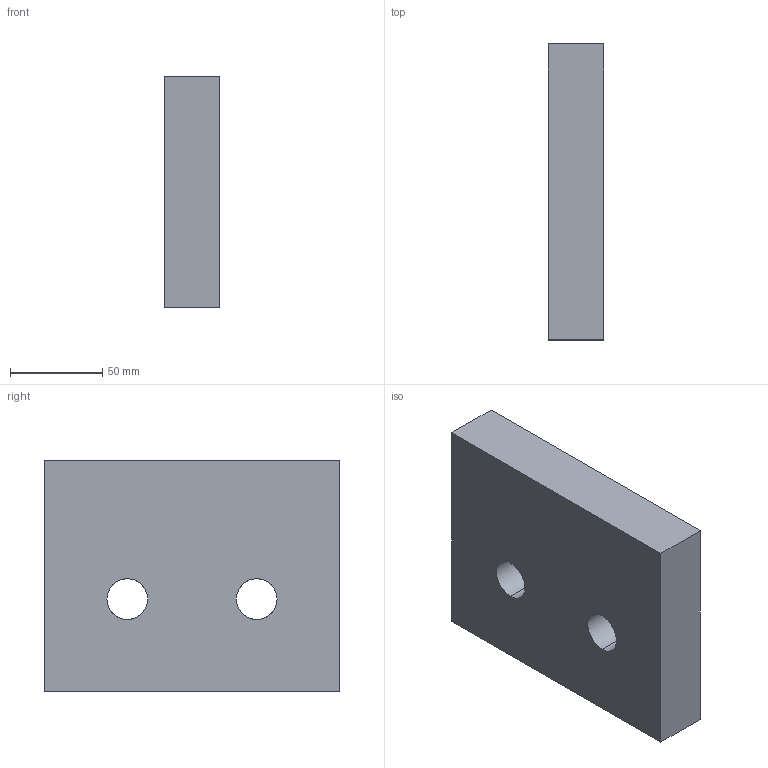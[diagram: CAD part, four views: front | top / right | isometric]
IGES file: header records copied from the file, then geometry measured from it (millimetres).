
Start section: START RECORD GO HERE.
Global section: file name: A612-125-160.igs; native system: DASSAULT SYSTEMES CATIA V5 R20 - www.3ds.com; preprocessor: CATIA Version 5 Release 20 ; author: Utente; organization: NB04-ASUS; date: 20200414.151624; units: millimetre
Bounding box: 30 x 160 x 125 mm (x, y, z)
Surface area: 59726.4 mm2 (no closed solid volume)
Topology: 0 solids, 0 shells, 10 faces, 48 edges, 48 vertices
Faces by surface type: extrusion 6, revolution 4
